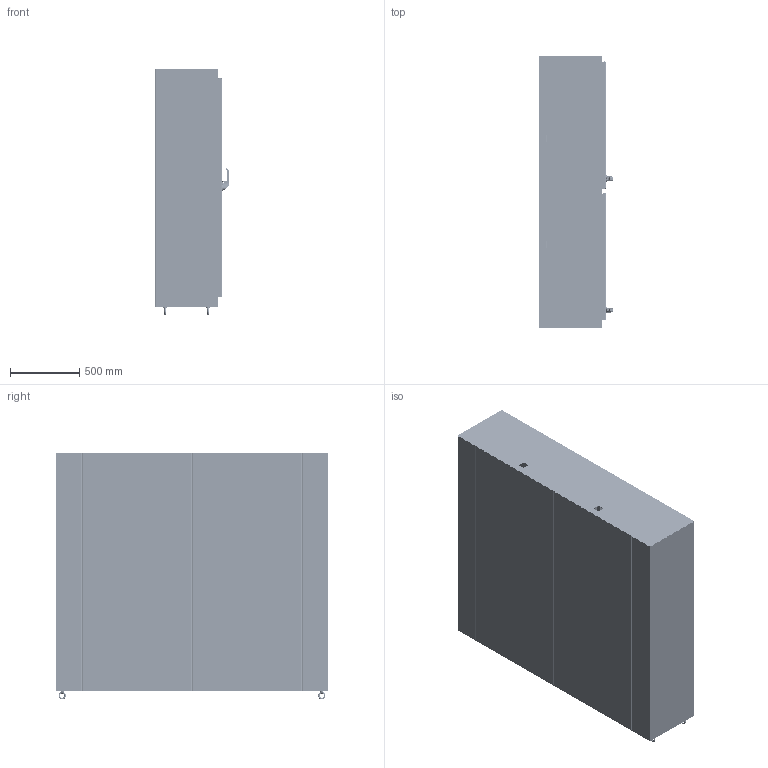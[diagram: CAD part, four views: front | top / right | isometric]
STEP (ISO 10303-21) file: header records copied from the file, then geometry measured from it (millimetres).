
FILE_DESCRIPTION((''),'2;1');
FILE_NAME('MODEL-437_ASM','2025-08-26T09:42:39',('joshi'),('SAGINAW CONTROL & ENGINEERING'),'CREO PARAMETRIC BY PTC INC, 2021284','CREO PARAMETRIC BY PTC INC, 2021284','');
FILE_SCHEMA(('AUTOMOTIVE_DESIGN { 1 0 10303 214 1 1 1 1 }'));
Length unit declared in the file: inch
Products named in the file (122): MODEL-437-L-SD; MODEL-437-TP; MODEL-437-R-SD; MODEL-437-BTM; MODEL-437-RH-DR; 100837; 111267; 100882; 100953_SCREW_MTG; 100953_PADLOCK_CATCH; 100953_SCREW_LARGE; 100953_INSERT_SHAFT; 100953_INSERT_PCH; 100953_GASKET; 100953_O-RING; 100953_BASE; 100953_SPRING; 100953_HANDLE; 100953_CAM_SHAFT; 100953_HANDLE_ASM; 100953_CAM_ADAPTER; 100953_EARTH_NUT; 100953_FLANGE_NUT; 100953_CAM_NUT; 100953_CP_INSERT; 100953_SPRING_CAM; 100953_TORSION_SPRING; 100953_SCREW_INSERT; 100953_ASM; 102237; 100030; 102237_ASM; MODEL-437-ROD-RH-UPR; 128146; 128145; 128144; 102482; MODEL-437-ROD-RH-UPR_ASM; 128143; 112504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
Assembly tree (263 placements, depth 5):
  MODEL-437_ASM
    MODEL-437-L-SD
    MODEL-437-TP
    MODEL-437-R-SD
    MODEL-437-BTM
    MODEL-437-RH-DOOR-ASSY_ASM
      MODEL-437-RH-DR
      100837  x7
      111267
      100882  x12
      100953_ASM
        100953_SCREW_MTG
        100953_PADLOCK_CATCH
        100953_SCREW_LARGE  x2
        100953_INSERT_SHAFT
        100953_INSERT_PCH
        100953_GASKET
        100953_O-RING
        100953_BASE
        100953_SPRING
        100953_HANDLE_ASM
          100953_HANDLE
          100953_CAM_SHAFT
        100953_CAM_ADAPTER
        100953_EARTH_NUT
        100953_FLANGE_NUT
        100953_CAM_NUT
        100953_CP_INSERT
        100953_SPRING_CAM
        100953_TORSION_SPRING
        100953_SCREW_INSERT
      102237_ASM
        102237
        100030  x2
      MODEL-437-ROD-RH-UPR_ASM
        MODEL-437-ROD-RH-UPR
        128146
        128145
        128144
        102482  x2
      128143  x2
      112504  x2
      MODEL-437-ROD-RH-LWR_ASM
        MODEL-437-ROD-RH-LWR
        128146
        128145
        128144
        102482  x2
      MODEL-437-PR-GSKT-RH
      128257_ASM  x4
        128257
      126393  x4
      102483  x4
      101369_ASM  x4
        101369
        101369-STUD
      101221  x4
    MODEL-437-LH-DOOR-ASSY_ASM
      MODEL-437-LH-DR
      100837  x3
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Bounding box: 535.27 x 1974.85 x 1788.36 mm (x, y, z)
Volume: 40911618.1 mm3; surface area: 29397593.6 mm2
Topology: 293 solids, 293 shells, 28206 faces, 71346 edges, 43842 vertices
Faces by surface type: plane 9562, cylinder 7733, bspline 6049, torus 2254, cone 1391, sphere 836, extrusion 381
Entity records: 837783 total; most frequent: CARTESIAN_POINT 373484, ORIENTED_EDGE 71356, DIRECTION 65585, PRESENTATION_STYLE_ASSIGNMENT 36842, STYLED_ITEM 36808, CURVE_STYLE 35678, EDGE_CURVE 35678, AXIS2_PLACEMENT_3D 24412
